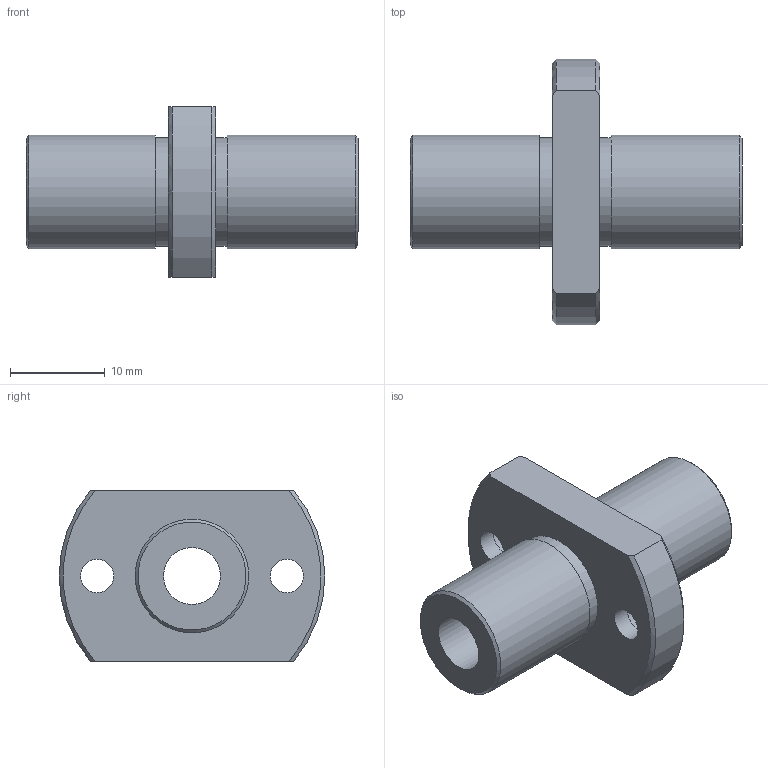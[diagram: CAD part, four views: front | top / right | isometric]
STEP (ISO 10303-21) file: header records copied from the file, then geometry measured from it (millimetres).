
FILE_DESCRIPTION(('STEP AP203'),'1');
FILE_NAME('//192.168.1.1/share/s-4 技術開発/s-4-4_CAD/s-4-4-3_見直し済み/002 修正済み/NFCO-VL/NFCO-VL_TOP/NFCO-6VLUU.step','2022-03-08T05:36:08',(' '),(' '),'Spatial InterOp 3D',' ',' ');
FILE_SCHEMA(('CONFIG_CONTROL_DESIGN'));
Length unit declared in the file: millimetre
Products named in the file (1): 1
Bounding box: 35 x 28 x 18 mm (x, y, z)
Volume: 4491.5 mm3; surface area: 3198 mm2
Topology: 1 solids, 1 shells, 27 faces, 61 edges, 42 vertices
Faces by surface type: cylinder 11, plane 10, cone 6
Full cylindrical faces by diameter (mm): 3.5 x2, 6 x3, 11.5 x2, 12 x2
Entity records: 730 total; most frequent: CARTESIAN_POINT 132, DIRECTION 120, ORIENTED_EDGE 88, AXIS2_PLACEMENT_3D 56, EDGE_LOOP 50, EDGE_CURVE 44, FACE_OUTER_BOUND 36, VERTEX_POINT 36
